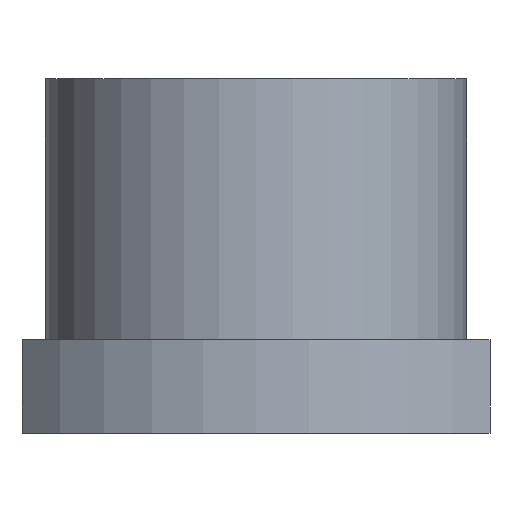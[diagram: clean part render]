
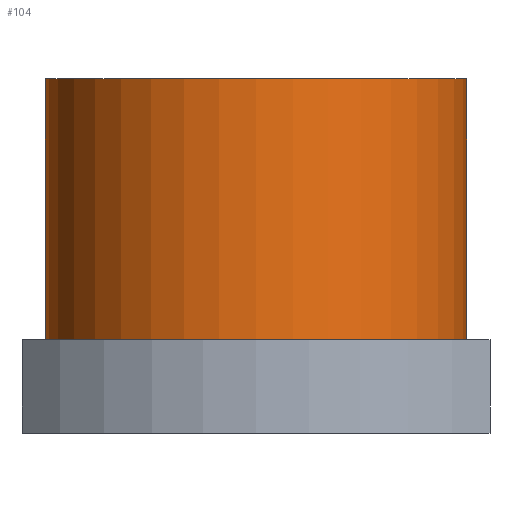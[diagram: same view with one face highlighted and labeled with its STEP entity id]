
A CAD part, front view. The second image highlights one B-rep face of the part: STEP entity #104.
In plain terms, the highlighted cylindrical face has radius 31.5 mm (diameter 63 mm), a full revolution.
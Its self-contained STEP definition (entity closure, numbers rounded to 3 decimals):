
#104=ADVANCED_FACE('',(#138,#139),#124,.T.);
#124=CYLINDRICAL_SURFACE('',#435,31.5);
#138=FACE_BOUND('',#195,.T.);
#139=FACE_BOUND('',#196,.T.);
#195=EDGE_LOOP('',(#268));
#196=EDGE_LOOP('',(#269));
#268=ORIENTED_EDGE('',*,*,#372,.F.);
#269=ORIENTED_EDGE('',*,*,#373,.T.);
#340=VERTEX_POINT('',#648);
#341=VERTEX_POINT('',#650);
#372=EDGE_CURVE('',#340,#340,#405,.T.);
#373=EDGE_CURVE('',#341,#341,#406,.T.);
#405=CIRCLE('',#433,31.5);
#406=CIRCLE('',#434,31.5);
#433=AXIS2_PLACEMENT_3D('',#647,#486,#487);
#434=AXIS2_PLACEMENT_3D('',#649,#488,#489);
#435=AXIS2_PLACEMENT_3D('',#651,#490,#491);
#486=DIRECTION('',(0.,0.,-1.));
#487=DIRECTION('',(1.,0.,0.));
#488=DIRECTION('',(0.,0.,-1.));
#489=DIRECTION('',(1.,0.,0.));
#490=DIRECTION('',(0.,0.,-1.));
#491=DIRECTION('',(-1.,0.,0.));
#647=CARTESIAN_POINT('',(0.,0.,14.));
#648=CARTESIAN_POINT('',(31.5,0.,14.));
#649=CARTESIAN_POINT('',(0.,0.,53.));
#650=CARTESIAN_POINT('',(31.5,0.,53.));
#651=CARTESIAN_POINT('',(0.,0.,53.));
